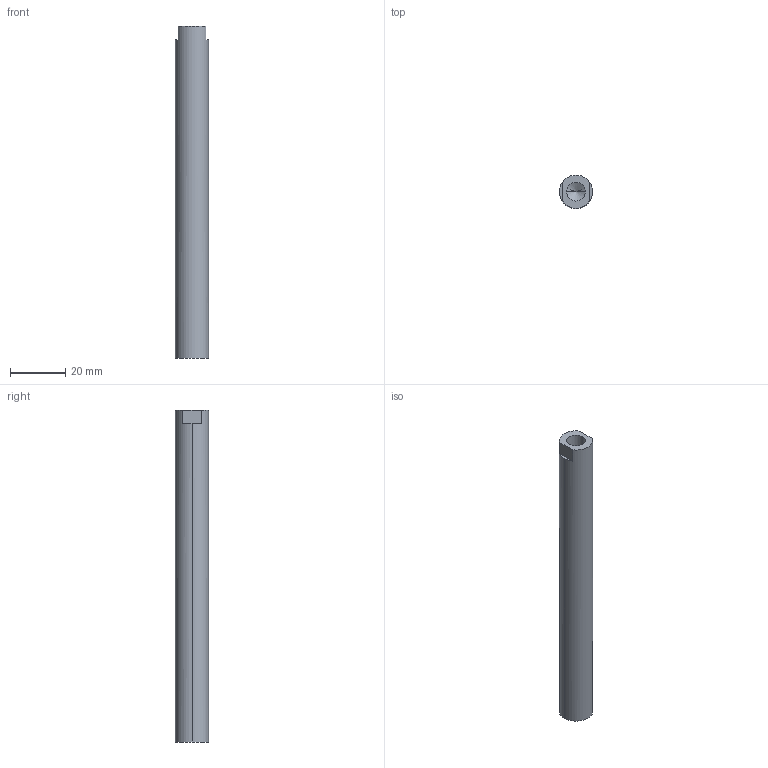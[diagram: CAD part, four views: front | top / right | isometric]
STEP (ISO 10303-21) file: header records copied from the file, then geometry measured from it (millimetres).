
FILE_DESCRIPTION (( 'STEP AP203' ), '1' );
FILE_NAME ('084.711.002.STEP', '2013-01-31T14:30:16', ( 'Alusic' ), ( 'Alusic' ), 'SwSTEP 2.0', 'SolidWorks 2011', '' );
FILE_SCHEMA (( 'CONFIG_CONTROL_DESIGN' ));
Length unit declared in the file: millimetre
Products named in the file (1): 084.711.002
Bounding box: 12 x 12 x 120 mm (x, y, z)
Volume: 12848.2 mm3; surface area: 5136.7 mm2
Topology: 1 solids, 1 shells, 12 faces, 28 edges, 17 vertices
Faces by surface type: plane 6, cylinder 4, cone 2
Entity records: 411 total; most frequent: DIRECTION 64, CARTESIAN_POINT 56, ORIENTED_EDGE 52, EDGE_CURVE 26, AXIS2_PLACEMENT_3D 25, VERTEX_POINT 17, VECTOR 14, LINE 14
